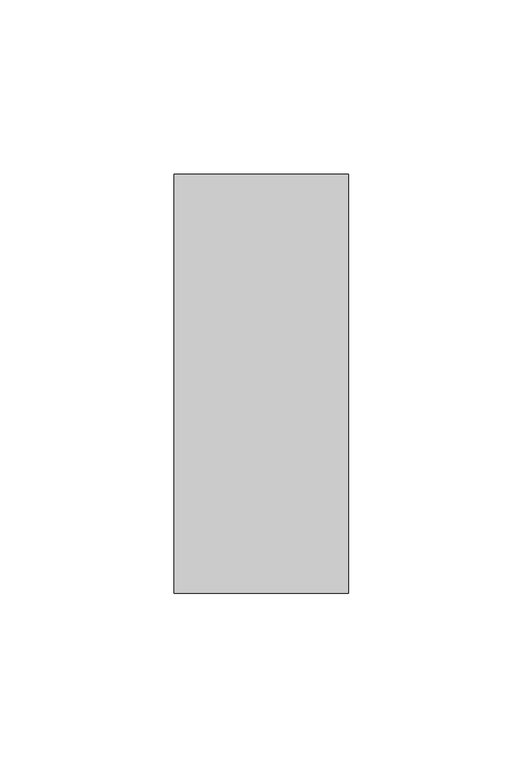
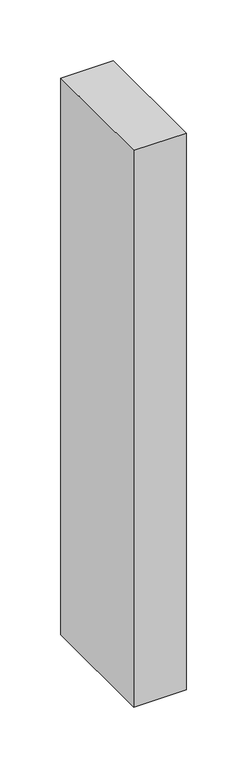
"""IFC4 building model written with IfcOpenShell, lengths in millimetres: member geometry, Прямоугольный импост : 50х120 мм."""

from ifc_helpers import new_model, si_unit, frame, origin, place, context, project, spatial, polyline, outline, extrude, source, transform, mapped, element, save


def member_1ef56fb2(model_context):
    return source(origin(), model_context, "Body", "SweptSolid", [
        extrude(outline(polyline([(25.0, 60.0), (25.0, -60.0), (-25.0, -60.0), (-25.0, 60.0), (25.0, 60.0)])), frame((0.0, 0.0, -560.0), z_axis=(0.0, 0.0, 1.0), x_axis=(1.0, 0.0, 0.0)), (0.0, 0.0, 1.0), 560.0),
    ])


if __name__ == "__main__":
    model = new_model("IFC4")
    model_context = context("Model", 3, world=origin())
    ifc_project = project(units=[si_unit("LENGTHUNIT", "METRE", prefix="MILLI")], contexts=[model_context])
    site = spatial("IfcSite", under=ifc_project)
    building = spatial("IfcBuilding", under=site)
    placement = place(None, origin())
    member_shape = member_1ef56fb2(model_context)
    element("IfcMember", 1, ObjectType="Прямоугольный импост : 50х120 мм", at=placement, inside=building, context=model_context, shape_type="MappedRepresentation", body=[
        mapped(member_shape, transform((0.0, 0.0, 0.0), x_axis=(1.0, 0.0, 0.0), y_axis=(0.0, 1.0, 0.0), z_axis=(0.0, 0.0, 1.0))),
    ])
    save(model, "model.ifc")
